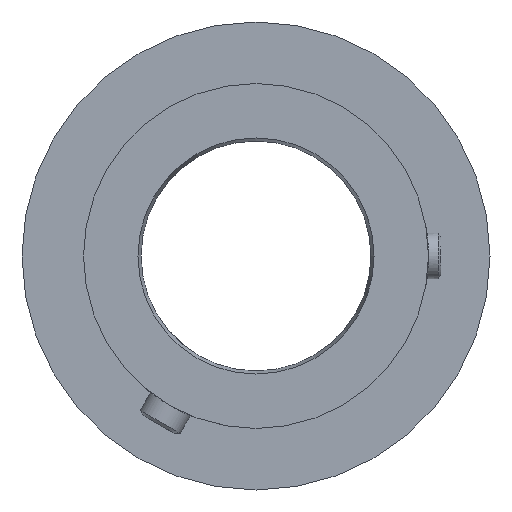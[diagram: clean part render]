
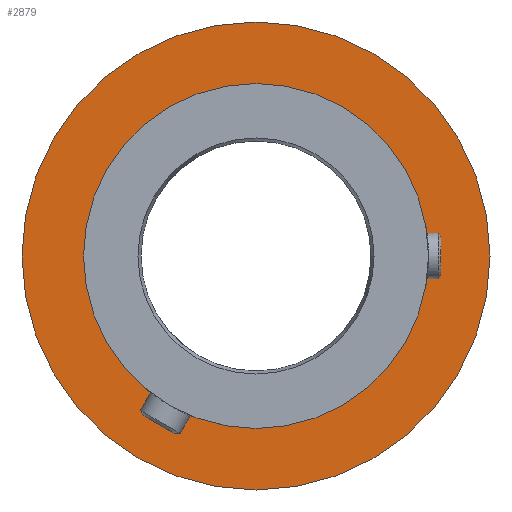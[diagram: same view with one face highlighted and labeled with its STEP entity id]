
A CAD part, left-side view. The second image highlights one B-rep face of the part: STEP entity #2879.
In plain terms, the highlighted planar face has unit normal (-1, 0, 0).
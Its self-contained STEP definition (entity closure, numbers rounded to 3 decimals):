
#1386=CARTESIAN_POINT('',(8.,0.,-20.35));
#1387=VERTEX_POINT('',#1386);
#1388=CARTESIAN_POINT('',(8.,0.,0.));
#1389=DIRECTION('',(-1.0,0.0,0.0));
#1390=DIRECTION('',(0.0,0.0,1.0));
#1391=AXIS2_PLACEMENT_3D('',#1388,#1389,#1390);
#1392=CIRCLE('',#1391,20.35);
#1393=EDGE_CURVE('',#1387,#1387,#1392,.T.);
#2839=CARTESIAN_POINT('',(8.0,15.,0.0));
#2840=VERTEX_POINT('',#2839);
#2841=CARTESIAN_POINT('',(8.0,0.0,0.0));
#2842=DIRECTION('',(1.0,0.0,0.0));
#2843=DIRECTION('',(0.0,1.0,0.0));
#2844=AXIS2_PLACEMENT_3D('',#2841,#2842,#2843);
#2845=CIRCLE('',#2844,15.);
#2846=EDGE_CURVE('',#2840,#2840,#2845,.T.);
#2868=CARTESIAN_POINT('',(8.0,16.25,0.0));
#2869=DIRECTION('',(-1.0,0.0,0.0));
#2870=DIRECTION('',(0.0,0.0,1.0));
#2871=AXIS2_PLACEMENT_3D('',#2868,#2869,#2870);
#2872=PLANE('',#2871);
#2873=ORIENTED_EDGE('',*,*,#1393,.T.);
#2874=EDGE_LOOP('',(#2873));
#2875=FACE_OUTER_BOUND('',#2874,.T.);
#2876=ORIENTED_EDGE('',*,*,#2846,.T.);
#2877=EDGE_LOOP('',(#2876));
#2878=FACE_BOUND('',#2877,.T.);
#2879=ADVANCED_FACE('',(#2875,#2878),#2872,.T.);
